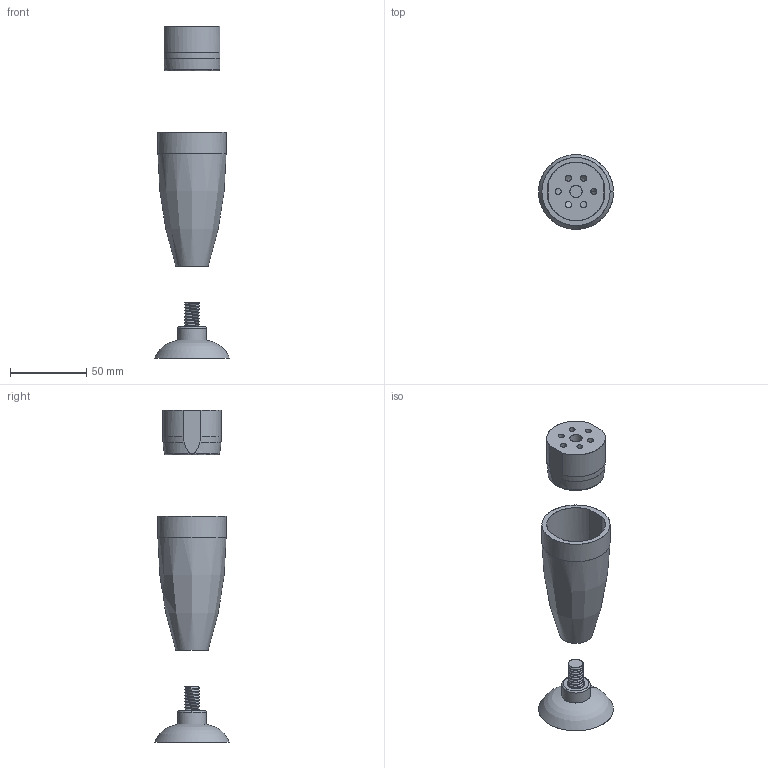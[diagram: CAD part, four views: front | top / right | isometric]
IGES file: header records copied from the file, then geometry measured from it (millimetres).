
Start section: C
Global section: file name: 0082-100.igs; native system: By Siemens PLM Incorporated; preprocessor: XPlus GENERIC/IGES 16.0.42; author: Author; organization: Title; date: 20260104.155245; units: millimetre
Bounding box: 49.2 x 49.1 x 217.82 mm (x, y, z)
Surface area: 42191.7 mm2 (no closed solid volume)
Topology: 0 solids, 0 shells, 171 faces, 970 edges, 970 vertices
Faces by surface type: bspline 171
